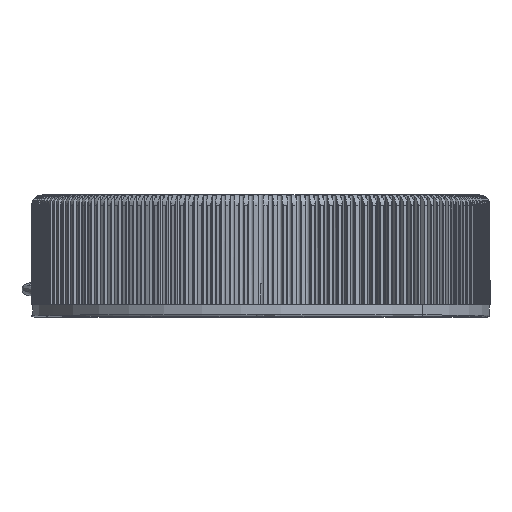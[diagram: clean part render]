
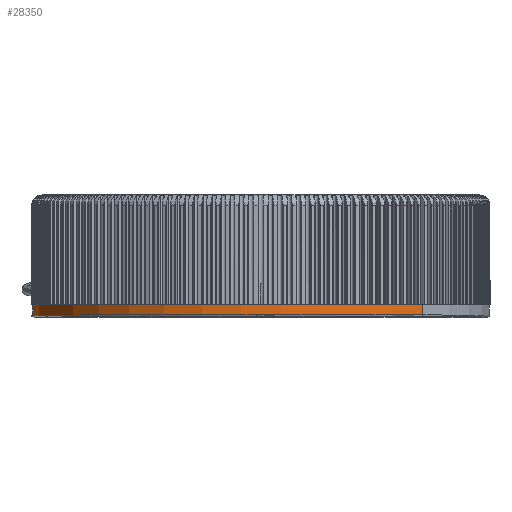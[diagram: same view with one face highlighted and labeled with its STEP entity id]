
A CAD part, top view. The second image highlights one B-rep face of the part: STEP entity #28350.
In plain terms, the highlighted cylindrical face has radius 65.75 mm (diameter 131.5 mm), a partial arc.
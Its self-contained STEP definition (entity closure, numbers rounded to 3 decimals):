
#1123 = LINE ( 'NONE', #7350, #42443 ) ;
#2543 = ORIENTED_EDGE ( 'NONE', *, *, #24711, .F. ) ;
#3055 = EDGE_CURVE ( 'NONE', #45263, #30854, #34033, .T. ) ;
#3766 = DIRECTION ( 'NONE',  ( 0., 1., 0. ) ) ;
#4098 = CARTESIAN_POINT ( 'NONE',  ( 0., 0.5, 65.75 ) ) ;
#7350 = CARTESIAN_POINT ( 'NONE',  ( 0., 5., 65.75 ) ) ;
#10037 = LINE ( 'NONE', #24797, #30098 ) ;
#15663 = CARTESIAN_POINT ( 'NONE',  ( 0., 0.5, -65.75 ) ) ;
#16584 = AXIS2_PLACEMENT_3D ( 'NONE', #27804, #3766, #31775 ) ;
#17808 = DIRECTION ( 'NONE',  ( 0., -1., 0. ) ) ;
#18372 = VERTEX_POINT ( 'NONE', #4098 ) ;
#20642 = EDGE_CURVE ( 'NONE', #45263, #18372, #1123, .T. ) ;
#21836 = CARTESIAN_POINT ( 'NONE',  ( 0., 5., 0. ) ) ;
#24711 = EDGE_CURVE ( 'NONE', #30854, #34582, #10037, .T. ) ;
#24797 = CARTESIAN_POINT ( 'NONE',  ( 0., 5., -65.75 ) ) ;
#26105 = ORIENTED_EDGE ( 'NONE', *, *, #20642, .T. ) ;
#26782 = CYLINDRICAL_SURFACE ( 'NONE', #33740, 65.75 ) ;
#27633 = EDGE_LOOP ( 'NONE', ( #43795, #26105, #39817, #2543 ) ) ;
#27804 = CARTESIAN_POINT ( 'NONE',  ( 0., 0.5, 0. ) ) ;
#28350 = ADVANCED_FACE ( 'NONE', ( #48040 ), #26782, .T. ) ;
#30098 = VECTOR ( 'NONE', #40847, 1000. ) ;
#30854 = VERTEX_POINT ( 'NONE', #39574 ) ;
#31775 = DIRECTION ( 'NONE',  ( 0., 0., 1. ) ) ;
#33740 = AXIS2_PLACEMENT_3D ( 'NONE', #21836, #17808, #37776 ) ;
#34033 = CIRCLE ( 'NONE', #51041, 65.75 ) ;
#34582 = VERTEX_POINT ( 'NONE', #15663 ) ;
#37776 = DIRECTION ( 'NONE',  ( 0., 0., -1. ) ) ;
#39574 = CARTESIAN_POINT ( 'NONE',  ( 0., 3.5, -65.75 ) ) ;
#39817 = ORIENTED_EDGE ( 'NONE', *, *, #50424, .T. ) ;
#40485 = CIRCLE ( 'NONE', #16584, 65.75 ) ;
#40847 = DIRECTION ( 'NONE',  ( 0., -1., 0. ) ) ;
#42443 = VECTOR ( 'NONE', #51442, 1000. ) ;
#43795 = ORIENTED_EDGE ( 'NONE', *, *, #3055, .F. ) ;
#44229 = CARTESIAN_POINT ( 'NONE',  ( 0., 3.5, 65.75 ) ) ;
#45263 = VERTEX_POINT ( 'NONE', #44229 ) ;
#48040 = FACE_OUTER_BOUND ( 'NONE', #27633, .T. ) ;
#50424 = EDGE_CURVE ( 'NONE', #18372, #34582, #40485, .T. ) ;
#51041 = AXIS2_PLACEMENT_3D ( 'NONE', #51495, #51319, #51206 ) ;
#51206 = DIRECTION ( 'NONE',  ( 0., 0., 1. ) ) ;
#51319 = DIRECTION ( 'NONE',  ( 0., 1., 0. ) ) ;
#51442 = DIRECTION ( 'NONE',  ( 0., -1., 0. ) ) ;
#51495 = CARTESIAN_POINT ( 'NONE',  ( 0., 3.5, 0. ) ) ;
